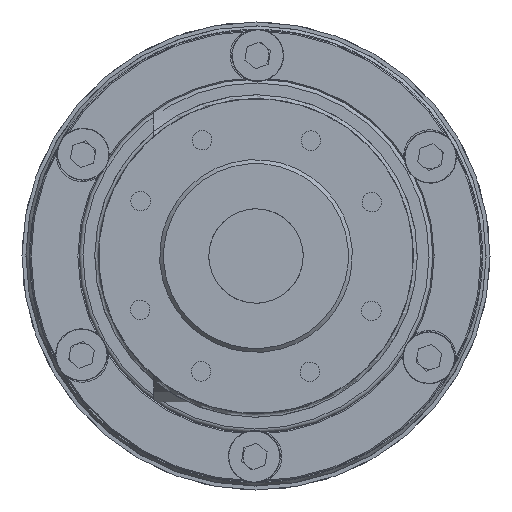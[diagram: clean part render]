
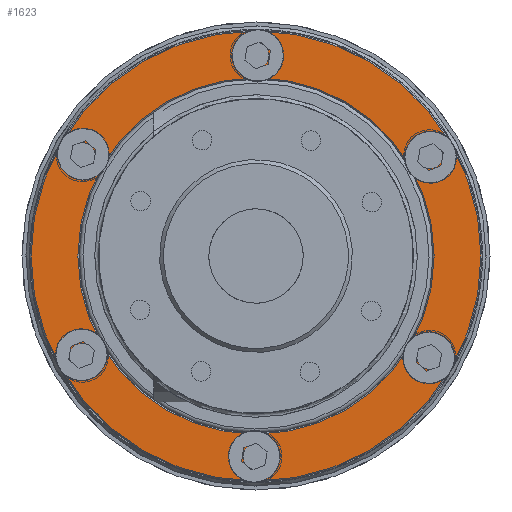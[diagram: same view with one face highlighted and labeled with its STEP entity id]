
A CAD part, left-side view. The second image highlights one B-rep face of the part: STEP entity #1623.
In plain terms, the highlighted planar face has unit normal (-1, 0, 0).
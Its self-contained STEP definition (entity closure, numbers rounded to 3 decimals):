
#1623 = ADVANCED_FACE( '', ( #3028, #3029, #3030, #3031, #3032, #3033, #3034, #3035 ), #3036, .F. );
#3028 = FACE_OUTER_BOUND( '', #4305, .T. );
#3029 = FACE_BOUND( '', #4306, .T. );
#3030 = FACE_BOUND( '', #4307, .T. );
#3031 = FACE_BOUND( '', #4308, .T. );
#3032 = FACE_BOUND( '', #4309, .T. );
#3033 = FACE_BOUND( '', #4310, .T. );
#3034 = FACE_BOUND( '', #4311, .T. );
#3035 = FACE_BOUND( '', #4312, .T. );
#3036 = PLANE( '', #4313 );
#4305 = EDGE_LOOP( '', ( #6068 ) );
#4306 = EDGE_LOOP( '', ( #6069 ) );
#4307 = EDGE_LOOP( '', ( #6070 ) );
#4308 = EDGE_LOOP( '', ( #6071 ) );
#4309 = EDGE_LOOP( '', ( #6072 ) );
#4310 = EDGE_LOOP( '', ( #6073 ) );
#4311 = EDGE_LOOP( '', ( #6074 ) );
#4312 = EDGE_LOOP( '', ( #6075 ) );
#4313 = AXIS2_PLACEMENT_3D( '', #6076, #6077, #6078 );
#6068 = ORIENTED_EDGE( '', *, *, #8486, .T. );
#6069 = ORIENTED_EDGE( '', *, *, #8489, .T. );
#6070 = ORIENTED_EDGE( '', *, *, #8490, .T. );
#6071 = ORIENTED_EDGE( '', *, *, #8491, .T. );
#6072 = ORIENTED_EDGE( '', *, *, #8492, .T. );
#6073 = ORIENTED_EDGE( '', *, *, #8493, .T. );
#6074 = ORIENTED_EDGE( '', *, *, #8494, .T. );
#6075 = ORIENTED_EDGE( '', *, *, #8495, .T. );
#6076 = CARTESIAN_POINT( '', ( -21., 57.5, 0. ) );
#6077 = DIRECTION( '', ( 1., 0., 0. ) );
#6078 = DIRECTION( '', ( 0., 1., 0. ) );
#8486 = EDGE_CURVE( '', #9623, #9623, #9624, .T. );
#8489 = EDGE_CURVE( '', #9629, #9629, #9630, .T. );
#8490 = EDGE_CURVE( '', #9631, #9631, #9632, .T. );
#8491 = EDGE_CURVE( '', #9633, #9633, #9634, .T. );
#8492 = EDGE_CURVE( '', #9635, #9635, #9636, .T. );
#8493 = EDGE_CURVE( '', #9637, #9637, #9638, .T. );
#8494 = EDGE_CURVE( '', #9639, #9639, #9640, .T. );
#8495 = EDGE_CURVE( '', #9641, #9641, #9642, .T. );
#9623 = VERTEX_POINT( '', #10727 );
#9624 = CIRCLE( '', #10728, 57.2 );
#9629 = VERTEX_POINT( '', #10733 );
#9630 = CIRCLE( '', #10734, 45.3 );
#9631 = VERTEX_POINT( '', #10735 );
#9632 = CIRCLE( '', #10736, 3.324 );
#9633 = VERTEX_POINT( '', #10737 );
#9634 = CIRCLE( '', #10738, 3.324 );
#9635 = VERTEX_POINT( '', #10739 );
#9636 = CIRCLE( '', #10740, 3.324 );
#9637 = VERTEX_POINT( '', #10741 );
#9638 = CIRCLE( '', #10742, 3.324 );
#9639 = VERTEX_POINT( '', #10743 );
#9640 = CIRCLE( '', #10744, 3.324 );
#9641 = VERTEX_POINT( '', #10745 );
#9642 = CIRCLE( '', #10746, 3.324 );
#10727 = CARTESIAN_POINT( '', ( -21., 0., -57.2 ) );
#10728 = AXIS2_PLACEMENT_3D( '', #12493, #12494, #12495 );
#10733 = CARTESIAN_POINT( '', ( -21., 0., -45.3 ) );
#10734 = AXIS2_PLACEMENT_3D( '', #12502, #12503, #12504 );
#10735 = CARTESIAN_POINT( '', ( -21., 47.046, 27.162 ) );
#10736 = AXIS2_PLACEMENT_3D( '', #12505, #12506, #12507 );
#10737 = CARTESIAN_POINT( '', ( -21., 47.046, -27.162 ) );
#10738 = AXIS2_PLACEMENT_3D( '', #12508, #12509, #12510 );
#10739 = CARTESIAN_POINT( '', ( -21., 0., -54.324 ) );
#10740 = AXIS2_PLACEMENT_3D( '', #12511, #12512, #12513 );
#10741 = CARTESIAN_POINT( '', ( -21., -47.046, -27.162 ) );
#10742 = AXIS2_PLACEMENT_3D( '', #12514, #12515, #12516 );
#10743 = CARTESIAN_POINT( '', ( -21., -47.046, 27.162 ) );
#10744 = AXIS2_PLACEMENT_3D( '', #12517, #12518, #12519 );
#10745 = CARTESIAN_POINT( '', ( -21., 0., 54.324 ) );
#10746 = AXIS2_PLACEMENT_3D( '', #12520, #12521, #12522 );
#12493 = CARTESIAN_POINT( '', ( -21., 0., 0. ) );
#12494 = DIRECTION( '', ( -1., 0., 0. ) );
#12495 = DIRECTION( '', ( 0., 0., -1. ) );
#12502 = CARTESIAN_POINT( '', ( -21., 0., 0. ) );
#12503 = DIRECTION( '', ( 1., 0., 0. ) );
#12504 = DIRECTION( '', ( 0., 0., -1. ) );
#12505 = CARTESIAN_POINT( '', ( -21., 44.167, 25.5 ) );
#12506 = DIRECTION( '', ( 1., 0., 0. ) );
#12507 = DIRECTION( '', ( 0., 0.866, 0.5 ) );
#12508 = CARTESIAN_POINT( '', ( -21., 44.167, -25.5 ) );
#12509 = DIRECTION( '', ( 1., 0., 0. ) );
#12510 = DIRECTION( '', ( 0., 0.866, -0.5 ) );
#12511 = CARTESIAN_POINT( '', ( -21., 0., -51. ) );
#12512 = DIRECTION( '', ( 1., 0., 0. ) );
#12513 = DIRECTION( '', ( 0., 0., -1. ) );
#12514 = CARTESIAN_POINT( '', ( -21., -44.167, -25.5 ) );
#12515 = DIRECTION( '', ( 1., 0., 0. ) );
#12516 = DIRECTION( '', ( 0., -0.866, -0.5 ) );
#12517 = CARTESIAN_POINT( '', ( -21., -44.167, 25.5 ) );
#12518 = DIRECTION( '', ( 1., 0., 0. ) );
#12519 = DIRECTION( '', ( 0., -0.866, 0.5 ) );
#12520 = CARTESIAN_POINT( '', ( -21., 0., 51. ) );
#12521 = DIRECTION( '', ( 1., 0., 0. ) );
#12522 = DIRECTION( '', ( 0., 0., 1. ) );
